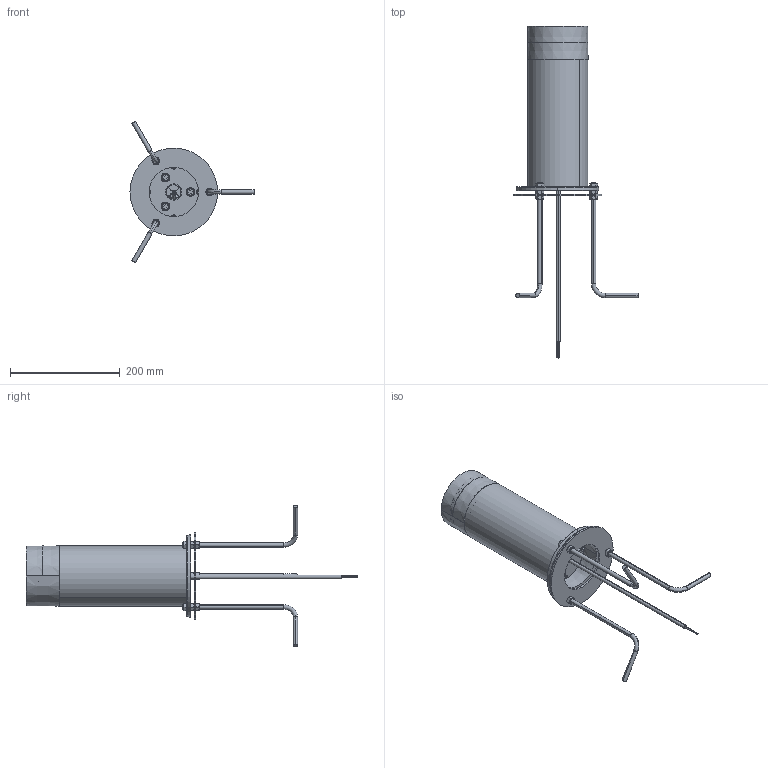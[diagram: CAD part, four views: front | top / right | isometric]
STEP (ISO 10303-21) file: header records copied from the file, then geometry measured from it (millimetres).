
FILE_DESCRIPTION((''),'2;1');
FILE_NAME('D9AFL1234_ASM','2025-03-18T',('C028'),(''),'CREO PARAMETRIC BY PTC INC, 2014190','CREO PARAMETRIC BY PTC INC, 2014190','');
FILE_SCHEMA(('CONFIG_CONTROL_DESIGN'));
Products named in the file (38): ___WO110__U_X___W_O_________I_T; ___WO110__U_X___W_O_____PC_O_V2; ___WO110__U_X___W_O__O_______PC; M18_1; O-A1_1; ___WO110__U_X___W_O_V2______WO1_ASM; ___WO110__U_X___W_O____W_Z-5063_ASM; ____-____5_1; 9AB-03DUDINGZUOHOUGAI_1_8_1; ___WO110__U_X___W_O__U_O_-257_1; ___WO110__U_X___W_O__U_O_-257_2; ___WO110__U_X___W_O__U_O_-25766_ASM; LI_BAN-24_1; O-B1_1; DIAN_YUAN_01_1; DIAN_YUAN_02_1; ___WO110__U_X___W_O____W_-25881_ASM; 9AD-07_300_1_35_3; LI_BAN_1; GUANZI_1_3; 12-ZHUANGJIEGGAI_3_1; 6-23_1; DICHA14A_ASM_1_ASM_3_ASM; 9AB_FA_LAN_PAN_56_1; PIN_1; M8-25_1; YUAN_GUAN-800_ASM_3_ASM; 9AB-11_4__ANY_1; M8LUOMU_3__ANY_1; 9AB-10_5__ANY_1; 9ABDIZUO_AF5_ASM_333_ASM_1_ANY__ASM; _____WO110_E_U_X___W_O_V2_180_A_ASM; 9AF-300_ASM_3_ASM; ___WO110__U_X___W_O__O___W___V2; ADMI09A858AF2J4R_66; 9AF-EFSQ; PRT0010; D9AFL1234_ASM
Assembly tree (51 placements, depth 6):
  D9AFL1234_ASM
    9AF-300_ASM_3_ASM
      _____WO110_E_U_X___W_O_V2_180_A_ASM
        ___WO110__U_X___W_O_V2______WO1_ASM
          ___WO110__U_X___W_O_________I_T
          ___WO110__U_X___W_O_____PC_O_V2
          ___WO110__U_X___W_O__O_______PC
          M18_1
          O-A1_1
        ___WO110__U_X___W_O____W_Z-5063_ASM
        ___WO110__U_X___W_O____W_-25881_ASM
          ____-____5_1
          9AB-03DUDINGZUOHOUGAI_1_8_1
          ___WO110__U_X___W_O__U_O_-25766_ASM
            ___WO110__U_X___W_O__U_O_-257_1
            ___WO110__U_X___W_O__U_O_-257_2
          LI_BAN-24_1
          O-B1_1
          DIAN_YUAN_01_1
          DIAN_YUAN_02_1
        YUAN_GUAN-800_ASM_3_ASM
          9AD-07_300_1_35_3
          LI_BAN_1
          DICHA14A_ASM_1_ASM_3_ASM
            GUANZI_1_3
            12-ZHUANGJIEGGAI_3_1
            6-23_1
          9AB_FA_LAN_PAN_56_1
          PIN_1  x3
          M8-25_1  x3
        9ABDIZUO_AF5_ASM_333_ASM_1_ANY__ASM
          9AB-11_4__ANY_1  x3
          M8LUOMU_3__ANY_1  x9
          9AB-10_5__ANY_1
    ___WO110__U_X___W_O__O___W___V2
    ADMI09A858AF2J4R_66
    9AF-EFSQ
    PRT0010
Bounding box: 226.5 x 606.03 x 257.75 mm (x, y, z)
Volume: 1047642 mm3; surface area: 614761.3 mm2
Topology: 42 solids, 42 shells, 2538 faces, 6840 edges, 4515 vertices
Faces by surface type: plane 1054, cylinder 651, cone 390, torus 229, bspline 131, extrusion 69, sphere 14
Entity records: 90562 total; most frequent: CARTESIAN_POINT 34211, ORIENTED_EDGE 11814, DIRECTION 11581, EDGE_CURVE 5907, AXIS2_PLACEMENT_3D 4299, VERTEX_POINT 3943, VECTOR 2983, LINE 2914
